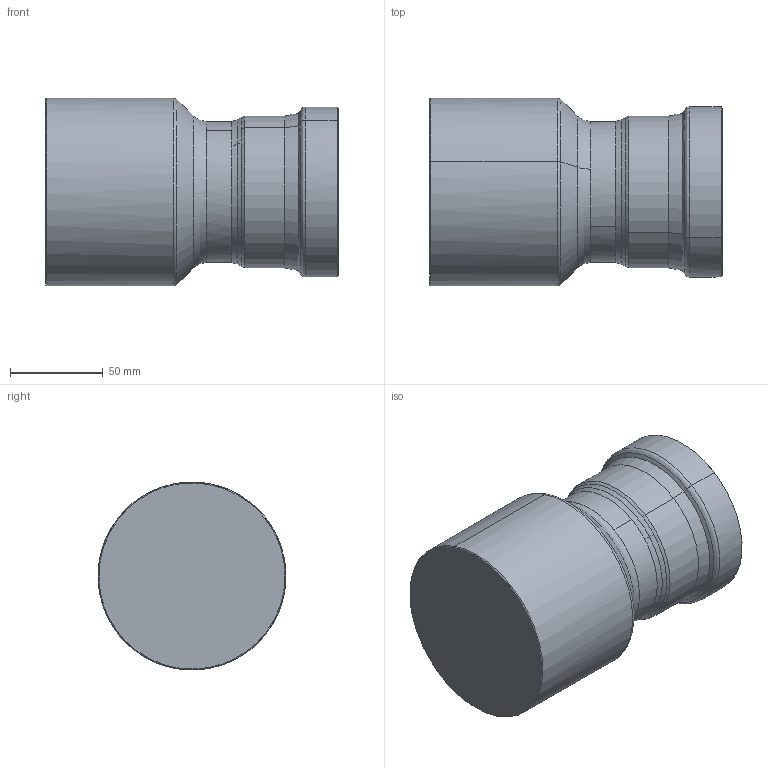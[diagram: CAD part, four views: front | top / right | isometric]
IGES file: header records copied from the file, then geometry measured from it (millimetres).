
Start section: 3D InterOp IGES (Version 25 0 1), Spatial Corp. Copyright (c) 1999-2007.
Global section: file name: pim0004361.igs; native system: Spatial Corp.; preprocessor: 3D InterOp ACIS/IGES; author: Cad-Pim; organization: TransMagic, Inc.; date: 20150430.125319; units: millimetre
Bounding box: 158.01 x 101.46 x 101.46 mm (x, y, z)
Volume: 826192.1 mm3; surface area: 73939.9 mm2
Topology: 1 solids, 1 shells, 40 faces, 108 edges, 72 vertices
Faces by surface type: bspline 14, cone 14, cylinder 12
